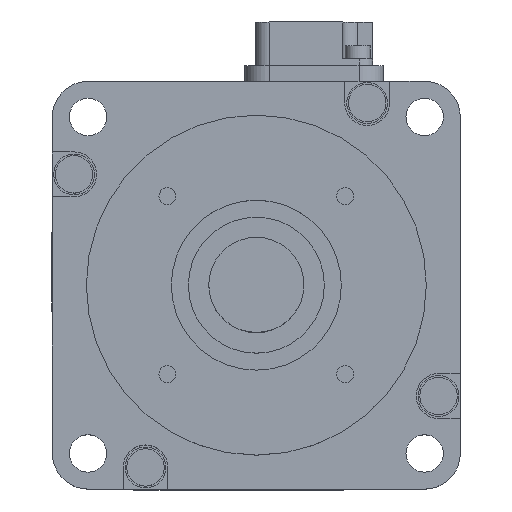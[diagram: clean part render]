
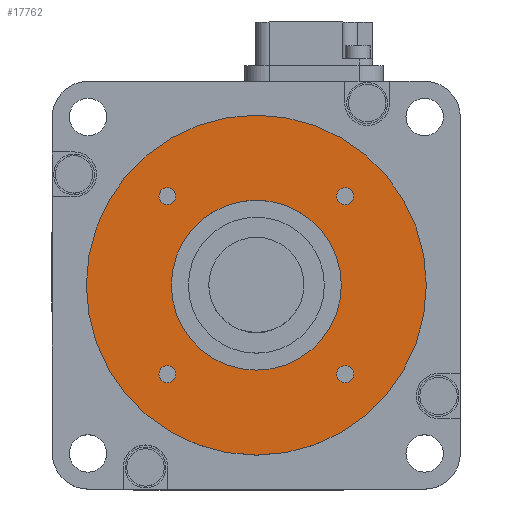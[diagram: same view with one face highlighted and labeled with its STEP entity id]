
A CAD part, top view. The second image highlights one B-rep face of the part: STEP entity #17762.
In plain terms, the highlighted planar face has unit normal (0, 0, 1).
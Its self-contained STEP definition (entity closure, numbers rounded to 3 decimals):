
#4793=CARTESIAN_POINT('',(0.,0.,36.));
#4794=DIRECTION('',(0.,0.,1.));
#4795=DIRECTION('',(1.,0.,0.));
#4796=AXIS2_PLACEMENT_3D('',#4793,#4794,#4795);
#4798=CARTESIAN_POINT('',(0.,0.,36.));
#4799=DIRECTION('',(0.,0.,1.));
#4800=DIRECTION('',(-1.,0.,0.));
#4801=AXIS2_PLACEMENT_3D('',#4798,#4799,#4800);
#4803=CARTESIAN_POINT('',(0.,0.,36.));
#4804=DIRECTION('',(0.,0.,-1.));
#4805=DIRECTION('',(1.,0.,0.));
#4806=AXIS2_PLACEMENT_3D('',#4803,#4804,#4805);
#4808=CARTESIAN_POINT('',(0.,0.,36.));
#4809=DIRECTION('',(0.,0.,-1.));
#4810=DIRECTION('',(-1.,0.,0.));
#4811=AXIS2_PLACEMENT_3D('',#4808,#4809,#4810);
#4813=CARTESIAN_POINT('',(13.081,13.081,36.));
#4814=DIRECTION('',(0.,0.,-1.));
#4815=DIRECTION('',(-1.,0.,0.));
#4816=AXIS2_PLACEMENT_3D('',#4813,#4814,#4815);
#4818=CARTESIAN_POINT('',(13.081,13.081,36.));
#4819=DIRECTION('',(0.,0.,-1.));
#4820=DIRECTION('',(1.,0.,0.));
#4821=AXIS2_PLACEMENT_3D('',#4818,#4819,#4820);
#4823=CARTESIAN_POINT('',(-13.081,13.081,36.));
#4824=DIRECTION('',(0.,0.,-1.));
#4825=DIRECTION('',(0.,-1.,0.));
#4826=AXIS2_PLACEMENT_3D('',#4823,#4824,#4825);
#4828=CARTESIAN_POINT('',(-13.081,13.081,36.));
#4829=DIRECTION('',(0.,0.,-1.));
#4830=DIRECTION('',(0.,1.,0.));
#4831=AXIS2_PLACEMENT_3D('',#4828,#4829,#4830);
#4833=CARTESIAN_POINT('',(-13.081,-13.081,36.));
#4834=DIRECTION('',(0.,0.,-1.));
#4835=DIRECTION('',(1.,0.,0.));
#4836=AXIS2_PLACEMENT_3D('',#4833,#4834,#4835);
#4838=CARTESIAN_POINT('',(-13.081,-13.081,36.));
#4839=DIRECTION('',(0.,0.,-1.));
#4840=DIRECTION('',(-1.,0.,0.));
#4841=AXIS2_PLACEMENT_3D('',#4838,#4839,#4840);
#4843=CARTESIAN_POINT('',(13.081,-13.081,36.));
#4844=DIRECTION('',(0.,0.,-1.));
#4845=DIRECTION('',(0.,1.,0.));
#4846=AXIS2_PLACEMENT_3D('',#4843,#4844,#4845);
#4848=CARTESIAN_POINT('',(13.081,-13.081,36.));
#4849=DIRECTION('',(0.,0.,-1.));
#4850=DIRECTION('',(0.,-1.,0.));
#4851=AXIS2_PLACEMENT_3D('',#4848,#4849,#4850);
#5123=CARTESIAN_POINT('',(-25.,0.,36.));
#5124=VERTEX_POINT('',#5123);
#5125=CARTESIAN_POINT('',(25.,0.,36.));
#5126=VERTEX_POINT('',#5125);
#5128=CARTESIAN_POINT('',(12.5,0.,36.));
#5130=VERTEX_POINT('',#5128);
#5133=CARTESIAN_POINT('',(-12.5,0.,36.));
#5134=VERTEX_POINT('',#5133);
#5155=CARTESIAN_POINT('',(14.331,13.081,36.));
#5156=VERTEX_POINT('',#5155);
#5157=CARTESIAN_POINT('',(11.831,13.081,36.));
#5158=VERTEX_POINT('',#5157);
#5171=CARTESIAN_POINT('',(-13.081,14.331,36.));
#5172=VERTEX_POINT('',#5171);
#5173=CARTESIAN_POINT('',(-13.081,11.831,36.));
#5174=VERTEX_POINT('',#5173);
#5175=CARTESIAN_POINT('',(-14.331,-13.081,36.));
#5176=VERTEX_POINT('',#5175);
#5177=CARTESIAN_POINT('',(-11.831,-13.081,36.));
#5178=VERTEX_POINT('',#5177);
#5179=CARTESIAN_POINT('',(13.081,-14.331,36.));
#5180=VERTEX_POINT('',#5179);
#5181=CARTESIAN_POINT('',(13.081,-11.831,36.));
#5182=VERTEX_POINT('',#5181);
#17722=CARTESIAN_POINT('',(0.,0.,36.));
#17723=DIRECTION('',(0.,0.,1.));
#17724=DIRECTION('',(-1.,0.,0.));
#17725=AXIS2_PLACEMENT_3D('',#17722,#17723,#17724);
#17726=PLANE('',#17725);
#17727=ORIENTED_EDGE('',*,*,#17700,.F.);
#17729=ORIENTED_EDGE('',*,*,#17728,.F.);
#17730=EDGE_LOOP('',(#17727,#17729));
#17731=FACE_OUTER_BOUND('',#17730,.F.);
#17733=ORIENTED_EDGE('',*,*,#17732,.F.);
#17735=ORIENTED_EDGE('',*,*,#17734,.F.);
#17736=EDGE_LOOP('',(#17733,#17735));
#17737=FACE_BOUND('',#17736,.F.);
#17739=ORIENTED_EDGE('',*,*,#17738,.F.);
#17741=ORIENTED_EDGE('',*,*,#17740,.F.);
#17742=EDGE_LOOP('',(#17739,#17741));
#17743=FACE_BOUND('',#17742,.F.);
#17745=ORIENTED_EDGE('',*,*,#17744,.F.);
#17747=ORIENTED_EDGE('',*,*,#17746,.F.);
#17748=EDGE_LOOP('',(#17745,#17747));
#17749=FACE_BOUND('',#17748,.F.);
#17751=ORIENTED_EDGE('',*,*,#17750,.F.);
#17753=ORIENTED_EDGE('',*,*,#17752,.F.);
#17754=EDGE_LOOP('',(#17751,#17753));
#17755=FACE_BOUND('',#17754,.F.);
#17757=ORIENTED_EDGE('',*,*,#17756,.F.);
#17759=ORIENTED_EDGE('',*,*,#17758,.F.);
#17760=EDGE_LOOP('',(#17757,#17759));
#17761=FACE_BOUND('',#17760,.F.);
#17762=ADVANCED_FACE('',(#17731,#17737,#17743,#17749,#17755,#17761),#17726,.T.);
#4797=CIRCLE('',#4796,25.);
#4802=CIRCLE('',#4801,25.);
#4807=CIRCLE('',#4806,12.5);
#4812=CIRCLE('',#4811,12.5);
#4817=CIRCLE('',#4816,1.25);
#4822=CIRCLE('',#4821,1.25);
#4827=CIRCLE('',#4826,1.25);
#4832=CIRCLE('',#4831,1.25);
#4837=CIRCLE('',#4836,1.25);
#4842=CIRCLE('',#4841,1.25);
#4847=CIRCLE('',#4846,1.25);
#4852=CIRCLE('',#4851,1.25);
#17700=EDGE_CURVE('',#5126,#5124,#4797,.T.);
#17728=EDGE_CURVE('',#5124,#5126,#4802,.T.);
#17732=EDGE_CURVE('',#5130,#5134,#4807,.T.);
#17734=EDGE_CURVE('',#5134,#5130,#4812,.T.);
#17738=EDGE_CURVE('',#5158,#5156,#4817,.T.);
#17740=EDGE_CURVE('',#5156,#5158,#4822,.T.);
#17744=EDGE_CURVE('',#5174,#5172,#4827,.T.);
#17746=EDGE_CURVE('',#5172,#5174,#4832,.T.);
#17750=EDGE_CURVE('',#5178,#5176,#4837,.T.);
#17752=EDGE_CURVE('',#5176,#5178,#4842,.T.);
#17756=EDGE_CURVE('',#5182,#5180,#4847,.T.);
#17758=EDGE_CURVE('',#5180,#5182,#4852,.T.);
